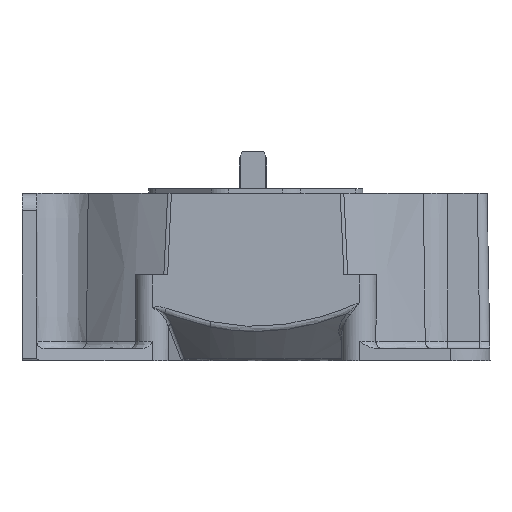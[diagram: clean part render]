
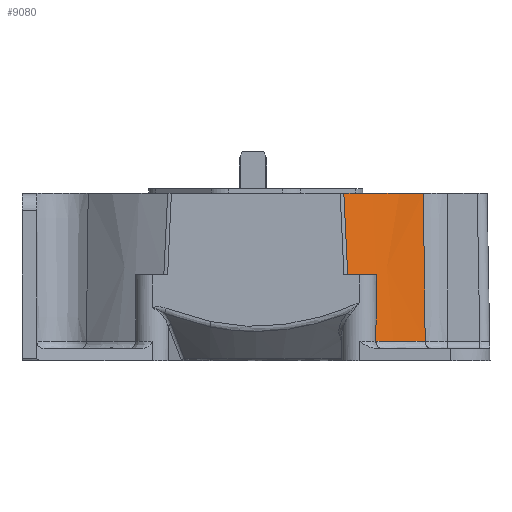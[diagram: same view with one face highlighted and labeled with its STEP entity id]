
A CAD part, left-side view. The second image highlights one B-rep face of the part: STEP entity #9080.
In plain terms, the highlighted conical face has half-angle 1 degrees and reference radius 48.678 mm.
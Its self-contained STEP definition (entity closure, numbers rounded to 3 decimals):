
#520 = CIRCLE ( 'NONE', #27647, 48.154 ) ;
#674 = DIRECTION ( 'NONE',  ( 0., 1., 0. ) ) ;
#1498 = AXIS2_PLACEMENT_3D ( 'NONE', #26564, #41363, #8115 ) ;
#2083 = CARTESIAN_POINT ( 'NONE',  ( -42.112, -69.266, -30.009 ) ) ;
#2104 = VERTEX_POINT ( 'NONE', #19128 ) ;
#2453 = CARTESIAN_POINT ( 'NONE',  ( -34.05, -78.9, 0. ) ) ;
#2657 = CARTESIAN_POINT ( 'NONE',  ( -43.863, -65.523, -16.5 ) ) ;
#3492 = CARTESIAN_POINT ( 'NONE',  ( -41.808, -69.32, -16.5 ) ) ;
#4851 = EDGE_CURVE ( 'NONE', #27190, #38031, #16588, .T. ) ;
#5340 = ORIENTED_EDGE ( 'NONE', *, *, #4851, .T. ) ;
#6058 = CARTESIAN_POINT ( 'NONE',  ( -41.808, -69.32, -16.5 ) ) ;
#7089 = CARTESIAN_POINT ( 'NONE',  ( -44.703, -63.006, -5.389 ) ) ;
#7781 = B_SPLINE_CURVE_WITH_KNOTS ( 'NONE', 3,
 ( #39194, #43075, #31902, #18714 ),
 .UNSPECIFIED., .F., .F.,
 ( 4, 4 ),
 ( 0., 1. ),
 .UNSPECIFIED. ) ;
#7809 = ORIENTED_EDGE ( 'NONE', *, *, #13906, .F. ) ;
#8115 = DIRECTION ( 'NONE',  ( 0., 1., 0. ) ) ;
#8177 = CARTESIAN_POINT ( 'NONE',  ( 0., -44.85, 0. ) ) ;
#9080 = ADVANCED_FACE ( 'NONE', ( #29964 ), #22378, .T. ) ;
#9692 = CARTESIAN_POINT ( 'NONE',  ( -42.112, -69.266, -30.026 ) ) ;
#10389 = VERTEX_POINT ( 'NONE', #34248 ) ;
#11045 = ORIENTED_EDGE ( 'NONE', *, *, #27503, .T. ) ;
#13676 = CIRCLE ( 'NONE', #29914, 48.678 ) ;
#13906 = EDGE_CURVE ( 'NONE', #10389, #31713, #520, .T. ) ;
#15078 = CARTESIAN_POINT ( 'NONE',  ( -44.699, -63.269, -10.889 ) ) ;
#15713 = DIRECTION ( 'NONE',  ( 0., 0., 1. ) ) ;
#16152 = EDGE_CURVE ( 'NONE', #38031, #2104, #7781, .T. ) ;
#16245 = VECTOR ( 'NONE', #46975, 1000. ) ;
#16588 = B_SPLINE_CURVE_WITH_KNOTS ( 'NONE', 3,
 ( #43432, #2657, #47081, #6058 ),
 .UNSPECIFIED., .F., .F.,
 ( 4, 4 ),
 ( 0., 1. ),
 .UNSPECIFIED. ) ;
#16643 = CARTESIAN_POINT ( 'NONE',  ( -42.112, -69.266, -30.026 ) ) ;
#17004 = ORIENTED_EDGE ( 'NONE', *, *, #18221, .T. ) ;
#17833 = LINE ( 'NONE', #39927, #16245 ) ;
#18221 = EDGE_CURVE ( 'NONE', #32924, #36780, #13676, .T. ) ;
#18714 = CARTESIAN_POINT ( 'NONE',  ( -42.112, -69.266, -30. ) ) ;
#19128 = CARTESIAN_POINT ( 'NONE',  ( -42.112, -69.266, -30. ) ) ;
#19679 = B_SPLINE_CURVE_WITH_KNOTS ( 'NONE', 3,
 ( #47877, #7089, #15078, #44240 ),
 .UNSPECIFIED., .F., .F.,
 ( 4, 4 ),
 ( 0., 1. ),
 .UNSPECIFIED. ) ;
#21557 = DIRECTION ( 'NONE',  ( -1., 0., 0. ) ) ;
#22378 = CONICAL_SURFACE ( 'NONE', #1498, 48.678, 0.017 ) ;
#25674 = ORIENTED_EDGE ( 'NONE', *, *, #16152, .T. ) ;
#26282 = EDGE_CURVE ( 'NONE', #2104, #32924, #42974, .T. ) ;
#26564 = CARTESIAN_POINT ( 'NONE',  ( 0., -44.85, -30.026 ) ) ;
#27190 = VERTEX_POINT ( 'NONE', #38962 ) ;
#27503 = EDGE_CURVE ( 'NONE', #36780, #31713, #17833, .T. ) ;
#27647 = AXIS2_PLACEMENT_3D ( 'NONE', #8177, #15713, #674 ) ;
#27911 = EDGE_CURVE ( 'NONE', #10389, #27190, #19679, .T. ) ;
#28042 = CARTESIAN_POINT ( 'NONE',  ( -42.112, -69.266, -30. ) ) ;
#28963 = ORIENTED_EDGE ( 'NONE', *, *, #27911, .T. ) ;
#29205 = ORIENTED_EDGE ( 'NONE', *, *, #26282, .T. ) ;
#29914 = AXIS2_PLACEMENT_3D ( 'NONE', #40006, #37059, #21557 ) ;
#29964 = FACE_OUTER_BOUND ( 'NONE', #35417, .T. ) ;
#31713 = VERTEX_POINT ( 'NONE', #2453 ) ;
#31902 = CARTESIAN_POINT ( 'NONE',  ( -42.011, -69.289, -25.654 ) ) ;
#32924 = VERTEX_POINT ( 'NONE', #9692 ) ;
#34248 = CARTESIAN_POINT ( 'NONE',  ( -44.707, -62.743, 0. ) ) ;
#35417 = EDGE_LOOP ( 'NONE', ( #7809, #28963, #5340, #25674, #29205, #17004, #11045 ) ) ;
#36780 = VERTEX_POINT ( 'NONE', #47240 ) ;
#37059 = DIRECTION ( 'NONE',  ( 0., 0., 1. ) ) ;
#38031 = VERTEX_POINT ( 'NONE', #3492 ) ;
#38962 = CARTESIAN_POINT ( 'NONE',  ( -44.695, -63.532, -16.5 ) ) ;
#39194 = CARTESIAN_POINT ( 'NONE',  ( -41.808, -69.32, -16.5 ) ) ;
#39927 = CARTESIAN_POINT ( 'NONE',  ( -34.044, -78.894, 0.5 ) ) ;
#40006 = CARTESIAN_POINT ( 'NONE',  ( 0., -44.85, -30.026 ) ) ;
#41363 = DIRECTION ( 'NONE',  ( 0., 0., -1. ) ) ;
#42974 = B_SPLINE_CURVE_WITH_KNOTS ( 'NONE', 3,
 ( #28042, #2083, #45794, #16643 ),
 .UNSPECIFIED., .F., .F.,
 ( 4, 4 ),
 ( 0., 1. ),
 .UNSPECIFIED. ) ;
#43075 = CARTESIAN_POINT ( 'NONE',  ( -41.91, -69.306, -21.154 ) ) ;
#43432 = CARTESIAN_POINT ( 'NONE',  ( -44.695, -63.532, -16.5 ) ) ;
#44240 = CARTESIAN_POINT ( 'NONE',  ( -44.695, -63.532, -16.5 ) ) ;
#45794 = CARTESIAN_POINT ( 'NONE',  ( -42.112, -69.266, -30.017 ) ) ;
#46975 = DIRECTION ( 'NONE',  ( 0.012, 0.012, 1. ) ) ;
#47081 = CARTESIAN_POINT ( 'NONE',  ( -42.898, -67.458, -16.5 ) ) ;
#47240 = CARTESIAN_POINT ( 'NONE',  ( -34.421, -79.271, -30.026 ) ) ;
#47877 = CARTESIAN_POINT ( 'NONE',  ( -44.707, -62.743, 0. ) ) ;
